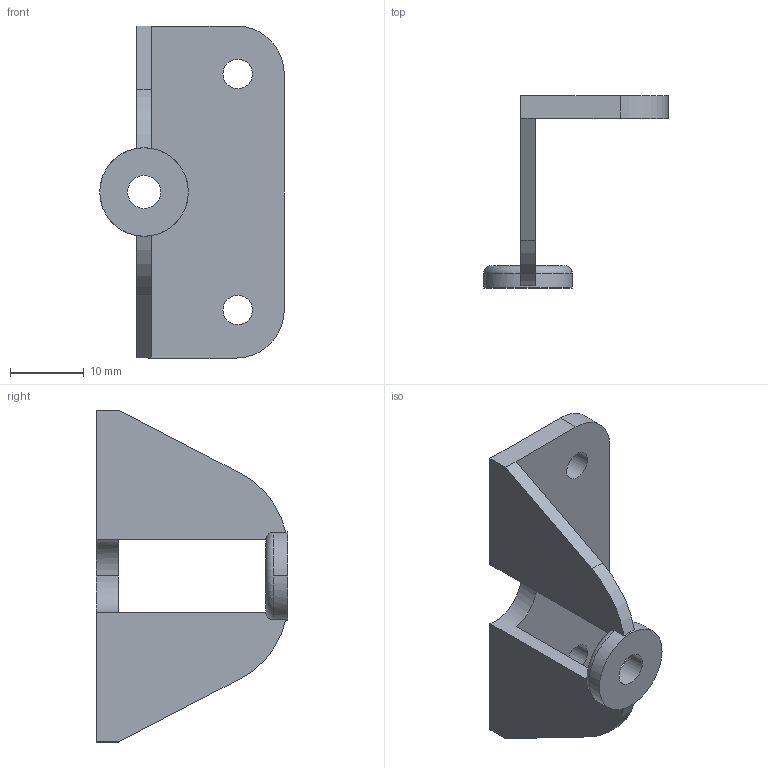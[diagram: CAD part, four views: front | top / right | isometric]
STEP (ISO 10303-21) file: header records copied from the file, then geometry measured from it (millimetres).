
FILE_DESCRIPTION( ( '' ), '1' );
FILE_NAME( 'C:/Documents and Settings/Nikhil/Desktop/Nik/Done/115365.stp', '2013-10-24T05:34:27', ( '' ), ( '' ), ' ', ' ', ' ' );
FILE_SCHEMA( ( 'automotive_design' ) );
Length unit declared in the file: millimetre
Products named in the file (1): 1
Bounding box: 25 x 26 x 45 mm (x, y, z)
Volume: 3725.4 mm3; surface area: 3559.1 mm2
Topology: 1 solids, 1 shells, 29 faces, 81 edges, 52 vertices
Faces by surface type: cylinder 14, plane 13, torus 2
Entity records: 1952 total; most frequent: CARTESIAN_POINT 249, DIRECTION 169, STYLED_ITEM 163, PRESENTATION_STYLE_ASSIGNMENT 163, COLOUR_RGB 163, ORIENTED_EDGE 162, EDGE_CURVE 81, CURVE_STYLE 81
